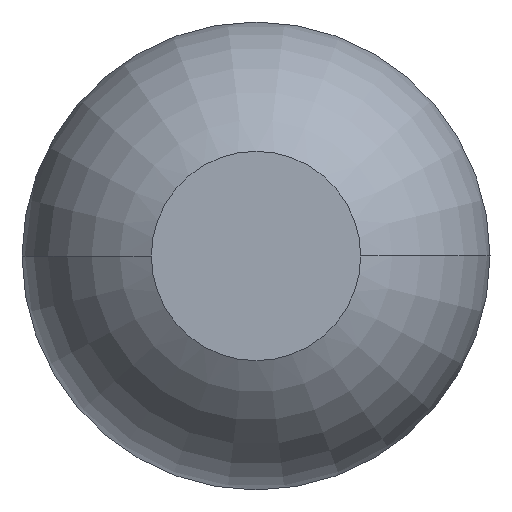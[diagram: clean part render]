
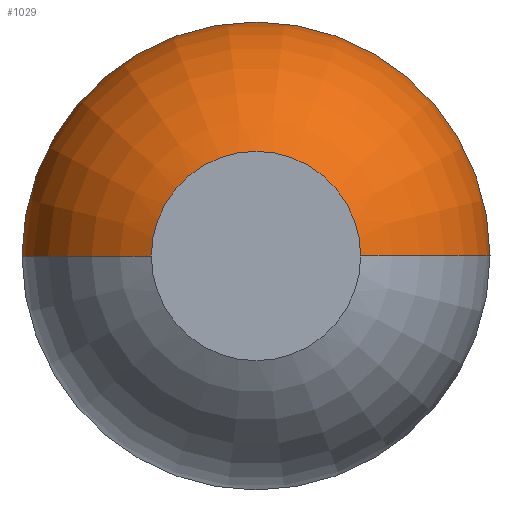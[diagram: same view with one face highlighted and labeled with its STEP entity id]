
A CAD part, left-side view. The second image highlights one B-rep face of the part: STEP entity #1029.
In plain terms, the highlighted toroidal (fillet/blend) face has major radius 0.003 mm and minor radius 0.508 mm.
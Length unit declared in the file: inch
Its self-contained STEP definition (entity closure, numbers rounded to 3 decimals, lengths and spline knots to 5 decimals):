
#23 = VERTEX_POINT ( 'NONE', #393 ) ;
#71 = CARTESIAN_POINT ( 'NONE',  ( 0.01792, -0.00013, 0. ) ) ;
#109 = ORIENTED_EDGE ( 'NONE', *, *, #406, .T. ) ;
#140 = DIRECTION ( 'NONE',  ( 1., 0., 0. ) ) ;
#147 = DIRECTION ( 'NONE',  ( 1., 0., 0. ) ) ;
#148 = EDGE_CURVE ( 'NONE', #23, #566, #1051, .T. ) ;
#151 = DIRECTION ( 'NONE',  ( 0., -1., 0. ) ) ;
#202 = CARTESIAN_POINT ( 'NONE',  ( 0.01792, 0., 0. ) ) ;
#236 = CARTESIAN_POINT ( 'NONE',  ( 0.01792, 0., 0. ) ) ;
#290 = FACE_OUTER_BOUND ( 'NONE', #309, .T. ) ;
#296 = VERTEX_POINT ( 'NONE', #925 ) ;
#309 = EDGE_LOOP ( 'NONE', ( #109, #852, #654, #979 ) ) ;
#372 = DIRECTION ( 'NONE',  ( 0., 1., 0. ) ) ;
#391 = CARTESIAN_POINT ( 'NONE',  ( 0., 0., 0. ) ) ;
#393 = CARTESIAN_POINT ( 'NONE',  ( 0.01792, 0.02013, 0. ) ) ;
#396 = DIRECTION ( 'NONE',  ( -1., 0., 0. ) ) ;
#406 = EDGE_CURVE ( 'NONE', #739, #296, #711, .T. ) ;
#426 = CARTESIAN_POINT ( 'NONE',  ( 0., 0.009, 0. ) ) ;
#470 = DIRECTION ( 'NONE',  ( 0., 1., 0. ) ) ;
#491 = TOROIDAL_SURFACE ( 'NONE', #853, 0.00013, 0.02 ) ;
#520 = DIRECTION ( 'NONE',  ( 1., 0., 0. ) ) ;
#540 = EDGE_CURVE ( 'NONE', #739, #23, #849, .T. ) ;
#566 = VERTEX_POINT ( 'NONE', #567 ) ;
#567 = CARTESIAN_POINT ( 'NONE',  ( 0.01792, -0.02013, 0. ) ) ;
#654 = ORIENTED_EDGE ( 'NONE', *, *, #148, .F. ) ;
#661 = AXIS2_PLACEMENT_3D ( 'NONE', #984, #723, #396 ) ;
#711 = CIRCLE ( 'NONE', #884, 0.009 ) ;
#723 = DIRECTION ( 'NONE',  ( 0., 0., -1. ) ) ;
#739 = VERTEX_POINT ( 'NONE', #426 ) ;
#778 = AXIS2_PLACEMENT_3D ( 'NONE', #236, #140, #878 ) ;
#809 = EDGE_CURVE ( 'NONE', #296, #566, #1007, .T. ) ;
#849 = CIRCLE ( 'NONE', #661, 0.02 ) ;
#851 = AXIS2_PLACEMENT_3D ( 'NONE', #71, #959, #151 ) ;
#852 = ORIENTED_EDGE ( 'NONE', *, *, #809, .T. ) ;
#853 = AXIS2_PLACEMENT_3D ( 'NONE', #202, #520, #372 ) ;
#878 = DIRECTION ( 'NONE',  ( 0., 1., 0. ) ) ;
#884 = AXIS2_PLACEMENT_3D ( 'NONE', #391, #147, #470 ) ;
#925 = CARTESIAN_POINT ( 'NONE',  ( 0., -0.009, 0. ) ) ;
#959 = DIRECTION ( 'NONE',  ( 0., 0., 1. ) ) ;
#979 = ORIENTED_EDGE ( 'NONE', *, *, #540, .F. ) ;
#984 = CARTESIAN_POINT ( 'NONE',  ( 0.01792, 0.00013, 0. ) ) ;
#1007 = CIRCLE ( 'NONE', #851, 0.02 ) ;
#1029 = ADVANCED_FACE ( 'NONE', ( #290 ), #491, .T. ) ;
#1051 = CIRCLE ( 'NONE', #778, 0.02013 ) ;
